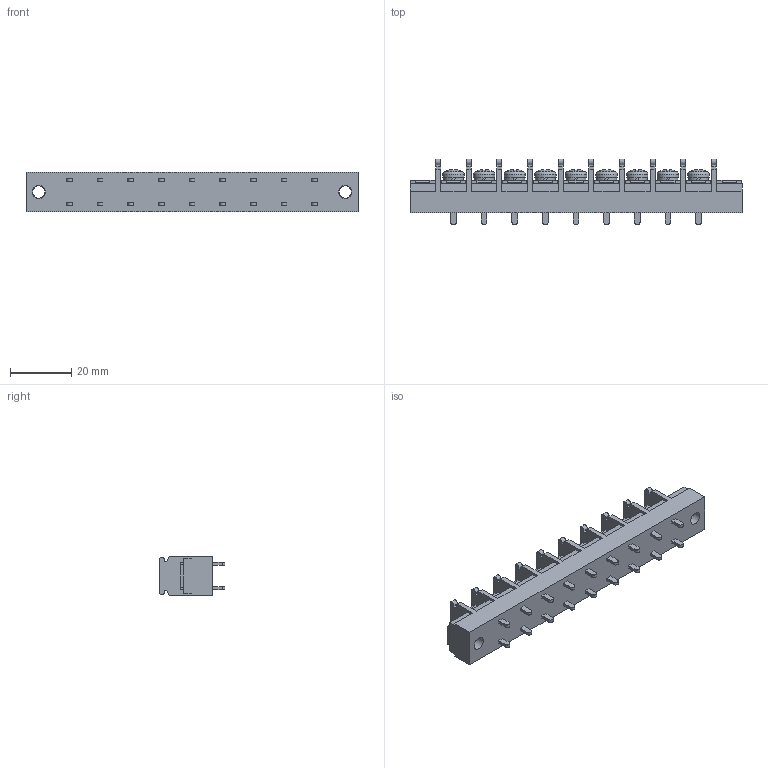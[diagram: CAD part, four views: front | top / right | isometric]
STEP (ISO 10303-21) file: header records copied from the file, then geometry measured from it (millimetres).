
FILE_DESCRIPTION(/* description */ ('Alibre Inc.'),/* implementation_level */ '2;1');
FILE_NAME(/* name */ 'export0',/* time_stamp */ '2015-10-17T19:06:44+09:00',/* author */ (''),/* organization */ (''),/* preprocessor_version */ 'ST-DEVELOPER v14',/* originating_system */ 'Alibre',/* authorisation */ '');
FILE_SCHEMA (('CONFIG_CONTROL_DESIGN'));
Length unit declared in the file: centimetre
Products named in the file (1): ID_1
Bounding box: 108.4 x 21.5 x 13 mm (x, y, z)
Volume: 16034.3 mm3; surface area: 9424.2 mm2
Topology: 1 solids, 17 shells, 1052 faces, 2849 edges, 1891 vertices
Faces by surface type: plane 794, bspline 104, cylinder 91, cone 36, torus 18, sphere 9
Full cylindrical faces by diameter (mm): 4 x11, 4.2 x2, 6.5 x9, 7 x9
Entity records: 31910 total; most frequent: CARTESIAN_POINT 6908, ORIENTED_EDGE 5560, DIRECTION 4036, EDGE_CURVE 2780, VECTOR 2066, LINE 2066, VERTEX_POINT 1862, AXIS2_PLACEMENT_3D 1372
